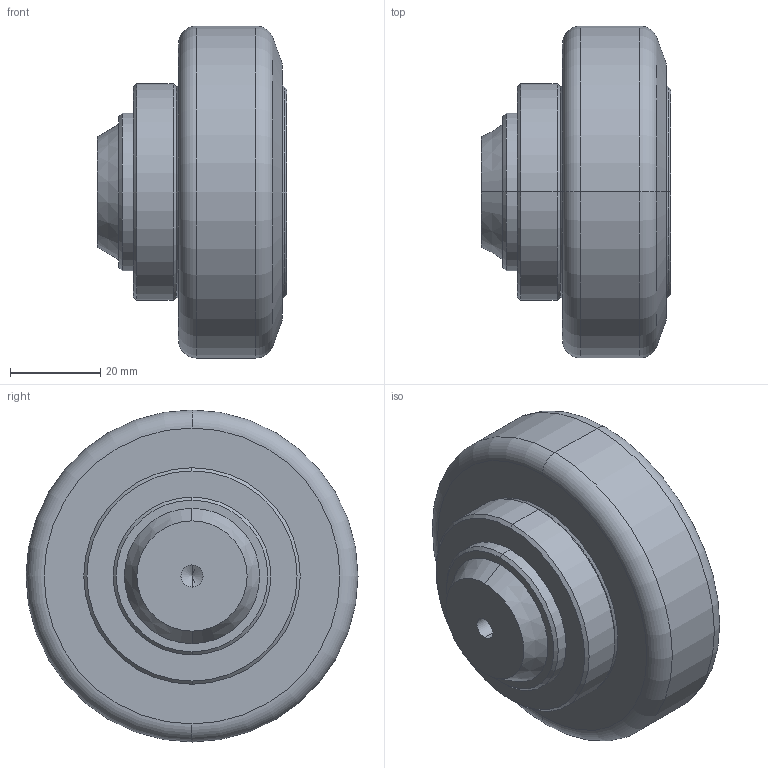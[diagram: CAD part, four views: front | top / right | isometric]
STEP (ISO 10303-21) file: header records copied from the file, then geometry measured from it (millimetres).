
FILE_DESCRIPTION (( 'STEP AP214' ), '1' );
FILE_NAME ('3D2.0360-PR.STEP', '2013-12-17T06:24:27', ( 'usuario' ), ( 'Hewlett-Packard Company' ), 'SwSTEP 2.0', 'SolidWorks 2017', '' );
FILE_SCHEMA (( 'AUTOMOTIVE_DESIGN' ));
Length unit declared in the file: millimetre
Products named in the file (1): 3D2.0360-PR
Bounding box: 42 x 73.62 x 73.62 mm (x, y, z)
Volume: 119458.2 mm3; surface area: 14986.9 mm2
Topology: 1 solids, 1 shells, 37 faces, 74 edges, 43 vertices
Faces by surface type: cone 18, cylinder 8, plane 7, torus 4
Entity records: 986 total; most frequent: DIRECTION 194, CARTESIAN_POINT 153, ORIENTED_EDGE 144, AXIS2_PLACEMENT_3D 84, EDGE_CURVE 72, CIRCLE 46, VERTEX_POINT 43, EDGE_LOOP 43
